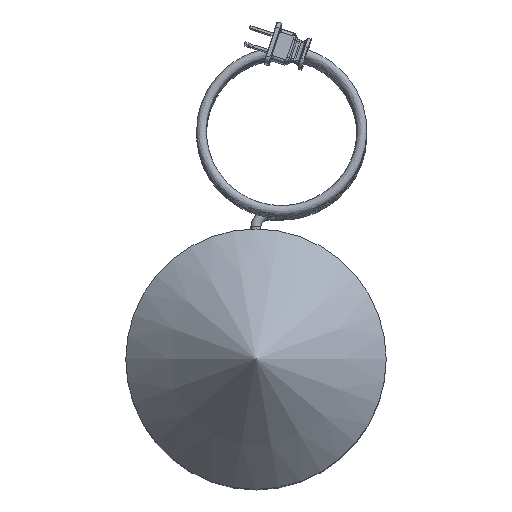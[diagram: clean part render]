
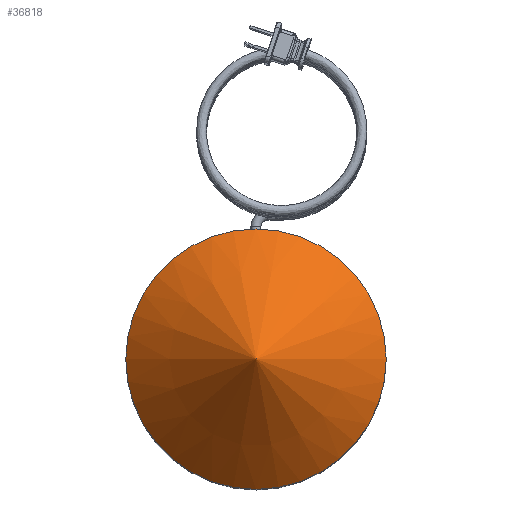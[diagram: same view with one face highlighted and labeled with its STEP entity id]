
A CAD part, top view. The second image highlights one B-rep face of the part: STEP entity #36818.
In plain terms, the highlighted conical face has half-angle 47.291 degrees and reference radius 82.55 mm.
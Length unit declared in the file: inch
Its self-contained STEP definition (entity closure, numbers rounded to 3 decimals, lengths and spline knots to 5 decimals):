
#337=CONICAL_SURFACE('',#38580,3.25,0.825);
#5926=FACE_OUTER_BOUND('',#8129,.T.);
#8129=EDGE_LOOP('',(#34585,#34586,#34587));
#11440=LINE('',#76078,#14740);
#14740=VECTOR('',#45021,3.25);
#15094=CIRCLE('',#38579,3.25);
#18602=VERTEX_POINT('',#76073);
#18603=VERTEX_POINT('',#76077);
#23935=EDGE_CURVE('',#18602,#18602,#15094,.T.);
#23936=EDGE_CURVE('',#18603,#18602,#11440,.T.);
#34585=ORIENTED_EDGE('',*,*,#23936,.T.);
#34586=ORIENTED_EDGE('',*,*,#23935,.T.);
#34587=ORIENTED_EDGE('',*,*,#23936,.F.);
#36818=ADVANCED_FACE('',(#5926),#337,.T.);
#38579=AXIS2_PLACEMENT_3D('',#76075,#45017,#45018);
#38580=AXIS2_PLACEMENT_3D('',#76076,#45019,#45020);
#45017=DIRECTION('center_axis',(0.,0.,-1.));
#45018=DIRECTION('ref_axis',(1.,0.,0.));
#45019=DIRECTION('center_axis',(0.,0.,1.));
#45020=DIRECTION('ref_axis',(1.,0.,0.));
#45021=DIRECTION('',(-0.735,0.,0.678));
#76073=CARTESIAN_POINT('',(-3.25,0.,3.));
#76075=CARTESIAN_POINT('Origin',(0.,0.,3.));
#76076=CARTESIAN_POINT('Origin',(0.,0.,3.));
#76077=CARTESIAN_POINT('',(0.,0.,0.));
#76078=CARTESIAN_POINT('',(-3.25,0.,3.));
